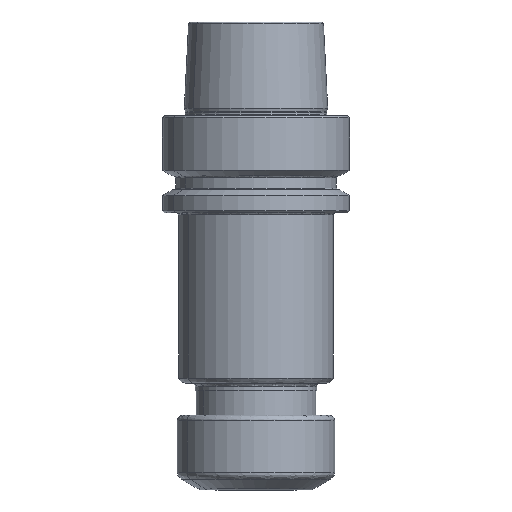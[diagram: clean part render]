
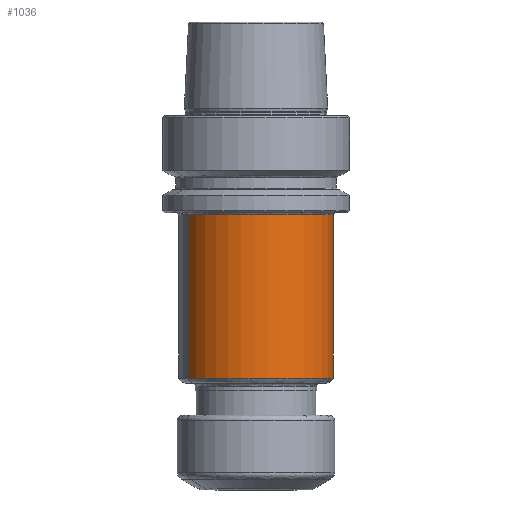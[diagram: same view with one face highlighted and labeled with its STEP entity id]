
A CAD part, left-side view. The second image highlights one B-rep face of the part: STEP entity #1036.
In plain terms, the highlighted face is a revolution surface.
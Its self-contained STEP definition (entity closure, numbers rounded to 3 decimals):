
#974=AXIS2_PLACEMENT_3D('Circle Axis2P3D',#972,#973,$) ;
#1017=AXIS2_PLACEMENT_3D('Circle Axis2P3D',#1015,#1016,$) ;
#969=CARTESIAN_POINT('Vertex',(-9.924,18.166,-26.5)) ;
#972=CARTESIAN_POINT('Axis2P3D Location',(0.,0.,-26.5)) ;
#976=CARTESIAN_POINT('Vertex',(9.924,-18.166,-26.5)) ;
#995=CARTESIAN_POINT('Control Point',(0.,20.7,-70.124)) ;
#996=CARTESIAN_POINT('Control Point',(0.,20.7,-61.4)) ;
#997=CARTESIAN_POINT('Control Point',(0.,20.7,-52.675)) ;
#998=CARTESIAN_POINT('Control Point',(0.,20.7,-43.95)) ;
#999=CARTESIAN_POINT('Control Point',(0.,20.7,-35.225)) ;
#1000=CARTESIAN_POINT('Control Point',(0.,20.7,-26.5)) ;
#1001=CARTESIAN_POINT('Axis1P Location',(0.,0.,-37.486)) ;
#1006=CARTESIAN_POINT('Control Point',(-9.924,18.166,-70.124)) ;
#1007=CARTESIAN_POINT('Control Point',(-9.924,18.166,-61.4)) ;
#1008=CARTESIAN_POINT('Control Point',(-9.924,18.166,-52.675)) ;
#1009=CARTESIAN_POINT('Control Point',(-9.924,18.166,-43.95)) ;
#1010=CARTESIAN_POINT('Control Point',(-9.924,18.166,-35.225)) ;
#1011=CARTESIAN_POINT('Control Point',(-9.924,18.166,-26.5)) ;
#1012=CARTESIAN_POINT('Vertex',(-9.924,18.166,-70.124)) ;
#1015=CARTESIAN_POINT('Axis2P3D Location',(0.,0.,-70.124)) ;
#1019=CARTESIAN_POINT('Vertex',(9.924,-18.166,-70.124)) ;
#1023=CARTESIAN_POINT('Control Point',(9.924,-18.166,-70.124)) ;
#1024=CARTESIAN_POINT('Control Point',(9.924,-18.166,-61.4)) ;
#1025=CARTESIAN_POINT('Control Point',(9.924,-18.166,-52.675)) ;
#1026=CARTESIAN_POINT('Control Point',(9.924,-18.166,-43.95)) ;
#1027=CARTESIAN_POINT('Control Point',(9.924,-18.166,-35.225)) ;
#1028=CARTESIAN_POINT('Control Point',(9.924,-18.166,-26.5)) ;
#973=DIRECTION('Axis2P3D Direction',(0.,0.,1.)) ;
#1002=DIRECTION('Axis1P Direction',(0.,0.,1.)) ;
#1016=DIRECTION('Axis2P3D Direction',(0.,0.,1.)) ;
#1003=AXIS1_PLACEMENT('Revolution Surface Axis1P',#1001,#1002) ;
#1031=ORIENTED_EDGE('',*,*,#978,.F.) ;
#1032=ORIENTED_EDGE('',*,*,#1014,.T.) ;
#1033=ORIENTED_EDGE('',*,*,#1021,.T.) ;
#1034=ORIENTED_EDGE('',*,*,#1029,.F.) ;
#1036=ADVANCED_FACE('NOCUT',(#1035),#1004,.T.) ;
#994=B_SPLINE_CURVE_WITH_KNOTS('',5,(#995,#996,#997,#998,#999,#1000),.UNSPECIFIED.,.F.,.U.,(6,6),(106.317,149.941),.UNSPECIFIED.) ;
#1005=B_SPLINE_CURVE_WITH_KNOTS('',5,(#1006,#1007,#1008,#1009,#1010,#1011),.UNSPECIFIED.,.F.,.U.,(6,6),(106.317,149.941),.UNSPECIFIED.) ;
#1022=B_SPLINE_CURVE_WITH_KNOTS('',5,(#1023,#1024,#1025,#1026,#1027,#1028),.UNSPECIFIED.,.F.,.U.,(6,6),(106.317,149.941),.UNSPECIFIED.) ;
#975=CIRCLE('generated circle',#974,20.7) ;
#1018=CIRCLE('generated circle',#1017,20.7) ;
#978=EDGE_CURVE('',#970,#977,#975,.T.) ;
#1014=EDGE_CURVE('',#970,#1013,#1005,.F.) ;
#1021=EDGE_CURVE('',#1013,#1020,#1018,.T.) ;
#1029=EDGE_CURVE('',#977,#1020,#1022,.F.) ;
#1030=EDGE_LOOP('',(#1031,#1032,#1033,#1034)) ;
#1035=FACE_OUTER_BOUND('',#1030,.T.) ;
#1004=SURFACE_OF_REVOLUTION('Surface of Revolution',#994,#1003) ;
#970=VERTEX_POINT('',#969) ;
#977=VERTEX_POINT('',#976) ;
#1013=VERTEX_POINT('',#1012) ;
#1020=VERTEX_POINT('',#1019) ;
